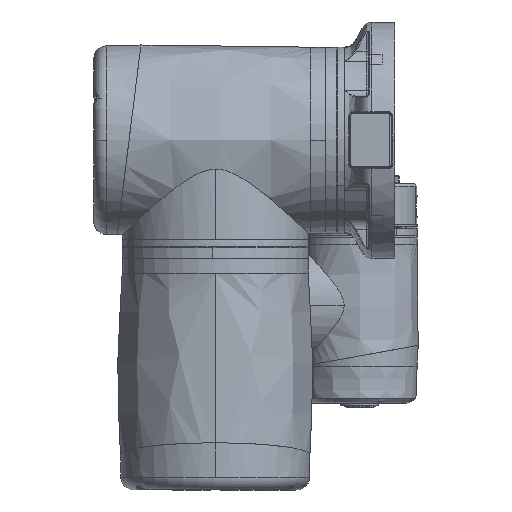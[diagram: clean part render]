
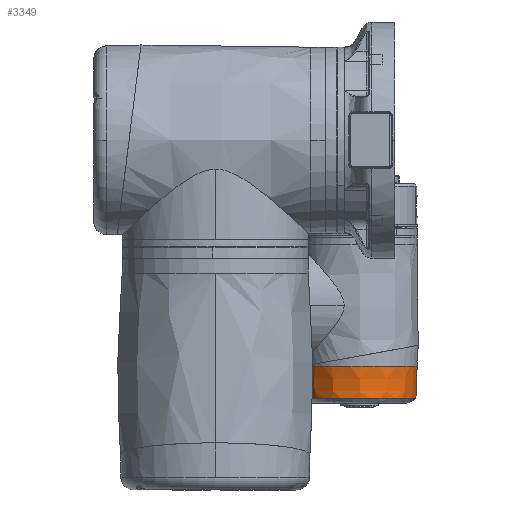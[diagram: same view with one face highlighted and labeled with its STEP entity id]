
A CAD part, left-side view. The second image highlights one B-rep face of the part: STEP entity #3349.
In plain terms, the highlighted free-form (B-spline) face has degree [3, 3] with [4, 7] control points.
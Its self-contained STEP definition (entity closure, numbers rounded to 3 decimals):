
#30 = B_SPLINE_CURVE_WITH_KNOTS ( 'NONE', 3,
 ( #52918, #10418, #67958, #45111 ),
 .UNSPECIFIED., .F., .F.,
 ( 4, 4 ),
 ( 0., 1. ),
 .UNSPECIFIED. ) ;
#1814 = CARTESIAN_POINT ( 'NONE',  ( 112.699, 0., 0. ) ) ;
#2051 = FACE_OUTER_BOUND ( 'NONE', #45864, .T. ) ;
#2592 = DIRECTION ( 'NONE',  ( -1., 0., 0. ) ) ;
#3349 = ADVANCED_FACE ( 'NONE', ( #2051 ), #11541, .T. ) ;
#10418 = CARTESIAN_POINT ( 'NONE',  ( 136.471, 45.241, 0. ) ) ;
#11541 =( BOUNDED_SURFACE ( )  B_SPLINE_SURFACE ( 3, 3, ( 
 ( #49295, #87711, #26895, #13255, #56563, #72096, #79426 ),
 ( #41937, #42428, #57516, #21062, #80404, #50739, #34664 ),
 ( #73067, #35155, #65769, #64826, #50247, #27373, #86261 ),
 ( #79909, #12277, #88199, #36112, #28813, #94531, #57052 ) ),
 .UNSPECIFIED., .F., .T., .T. ) 
 B_SPLINE_SURFACE_WITH_KNOTS ( ( 4, 4 ),
 ( 4, 3, 4 ),
 ( 0., 1. ),
 ( 0., 0.5, 1. ),
 .UNSPECIFIED. ) 
 GEOMETRIC_REPRESENTATION_ITEM ( )  RATIONAL_B_SPLINE_SURFACE ( (
 ( 1., 0.333, 0.333, 1., 0.333, 0.333, 1.),
 ( 1., 0.333, 0.333, 1., 0.333, 0.333, 1.),
 ( 1., 0.333, 0.333, 1., 0.333, 0.333, 1.),
 ( 1., 0.333, 0.333, 1., 0.333, 0.333, 1.) ) ) 
 REPRESENTATION_ITEM ( '' )  SURFACE ( )  );
#12277 = CARTESIAN_POINT ( 'NONE',  ( 112.699, -45.551, -91.102 ) ) ;
#13255 = CARTESIAN_POINT ( 'NONE',  ( 138.1, 44.3, 0. ) ) ;
#13621 = EDGE_CURVE ( 'NONE', #38670, #45747, #84338, .T. ) ;
#18690 = ORIENTED_EDGE ( 'NONE', *, *, #13621, .T. ) ;
#21062 = CARTESIAN_POINT ( 'NONE',  ( 136.471, 45.241, 0. ) ) ;
#21265 = ORIENTED_EDGE ( 'NONE', *, *, #46890, .T. ) ;
#22782 = VERTEX_POINT ( 'NONE', #82374 ) ;
#26700 = CARTESIAN_POINT ( 'NONE',  ( 138.1, 22.15, -38.365 ) ) ;
#26895 = CARTESIAN_POINT ( 'NONE',  ( 138.1, 44.3, -88.6 ) ) ;
#27373 = CARTESIAN_POINT ( 'NONE',  ( 121.172, -45.28, 90.561 ) ) ;
#27792 = EDGE_CURVE ( 'NONE', #22782, #38670, #48878, .T. ) ;
#27868 = CARTESIAN_POINT ( 'NONE',  ( 138.1, -44.3, 0. ) ) ;
#28813 = CARTESIAN_POINT ( 'NONE',  ( 112.699, 45.551, 91.102 ) ) ;
#31560 = DIRECTION ( 'NONE',  ( 0., 0., -1. ) ) ;
#32753 = CARTESIAN_POINT ( 'NONE',  ( 121.172, -45.28, 0. ) ) ;
#34625 = AXIS2_PLACEMENT_3D ( 'NONE', #55863, #79209, #87481 ) ;
#34664 = CARTESIAN_POINT ( 'NONE',  ( 136.471, -45.241, 0. ) ) ;
#35155 = CARTESIAN_POINT ( 'NONE',  ( 121.172, -45.28, -90.561 ) ) ;
#36112 = CARTESIAN_POINT ( 'NONE',  ( 112.699, 45.551, 0. ) ) ;
#36936 = B_SPLINE_CURVE_WITH_KNOTS ( 'NONE', 3,
 ( #60977, #75592, #32753, #77029 ),
 .UNSPECIFIED., .F., .F.,
 ( 4, 4 ),
 ( 0., 1. ),
 .UNSPECIFIED. ) ;
#38670 = VERTEX_POINT ( 'NONE', #26700 ) ;
#39494 = CARTESIAN_POINT ( 'NONE',  ( 112.699, 45.551, 0. ) ) ;
#41937 = CARTESIAN_POINT ( 'NONE',  ( 136.471, -45.241, 0. ) ) ;
#42428 = CARTESIAN_POINT ( 'NONE',  ( 136.471, -45.241, -90.481 ) ) ;
#45111 = CARTESIAN_POINT ( 'NONE',  ( 112.699, 45.551, 0. ) ) ;
#45601 = ORIENTED_EDGE ( 'NONE', *, *, #53240, .F. ) ;
#45747 = VERTEX_POINT ( 'NONE', #27868 ) ;
#45864 = EDGE_LOOP ( 'NONE', ( #45601, #85567, #18690, #21265, #55213 ) ) ;
#45961 = DIRECTION ( 'NONE',  ( 0., 0., -1. ) ) ;
#46890 = EDGE_CURVE ( 'NONE', #45747, #47810, #36936, .T. ) ;
#47810 = VERTEX_POINT ( 'NONE', #86753 ) ;
#48878 = CIRCLE ( 'NONE', #87724, 44.3 ) ;
#49295 = CARTESIAN_POINT ( 'NONE',  ( 138.1, -44.3, 0. ) ) ;
#50247 = CARTESIAN_POINT ( 'NONE',  ( 121.172, 45.28, 90.561 ) ) ;
#50739 = CARTESIAN_POINT ( 'NONE',  ( 136.471, -45.241, 90.481 ) ) ;
#52918 = CARTESIAN_POINT ( 'NONE',  ( 138.1, 44.3, 0. ) ) ;
#53240 = EDGE_CURVE ( 'NONE', #22782, #93234, #30, .T. ) ;
#55213 = ORIENTED_EDGE ( 'NONE', *, *, #64025, .F. ) ;
#55863 = CARTESIAN_POINT ( 'NONE',  ( 138.1, 0., 0. ) ) ;
#56563 = CARTESIAN_POINT ( 'NONE',  ( 138.1, 44.3, 88.6 ) ) ;
#57052 = CARTESIAN_POINT ( 'NONE',  ( 112.699, -45.551, 0. ) ) ;
#57516 = CARTESIAN_POINT ( 'NONE',  ( 136.471, 45.241, -90.481 ) ) ;
#60977 = CARTESIAN_POINT ( 'NONE',  ( 138.1, -44.3, 0. ) ) ;
#61444 = CIRCLE ( 'NONE', #73876, 45.551 ) ;
#64025 = EDGE_CURVE ( 'NONE', #93234, #47810, #61444, .T. ) ;
#64826 = CARTESIAN_POINT ( 'NONE',  ( 121.172, 45.28, 0. ) ) ;
#65769 = CARTESIAN_POINT ( 'NONE',  ( 121.172, 45.28, -90.561 ) ) ;
#66876 = CARTESIAN_POINT ( 'NONE',  ( 138.1, 0., 0. ) ) ;
#67958 = CARTESIAN_POINT ( 'NONE',  ( 121.172, 45.28, 0. ) ) ;
#72096 = CARTESIAN_POINT ( 'NONE',  ( 138.1, -44.3, 88.6 ) ) ;
#73067 = CARTESIAN_POINT ( 'NONE',  ( 121.172, -45.28, 0. ) ) ;
#73876 = AXIS2_PLACEMENT_3D ( 'NONE', #1814, #76299, #31560 ) ;
#75592 = CARTESIAN_POINT ( 'NONE',  ( 136.471, -45.241, 0. ) ) ;
#76299 = DIRECTION ( 'NONE',  ( -1., 0., 0. ) ) ;
#77029 = CARTESIAN_POINT ( 'NONE',  ( 112.699, -45.551, 0. ) ) ;
#79209 = DIRECTION ( 'NONE',  ( -1., 0., 0. ) ) ;
#79426 = CARTESIAN_POINT ( 'NONE',  ( 138.1, -44.3, 0. ) ) ;
#79909 = CARTESIAN_POINT ( 'NONE',  ( 112.699, -45.551, 0. ) ) ;
#80404 = CARTESIAN_POINT ( 'NONE',  ( 136.471, 45.241, 90.481 ) ) ;
#82374 = CARTESIAN_POINT ( 'NONE',  ( 138.1, 44.3, 0. ) ) ;
#84338 = CIRCLE ( 'NONE', #34625, 44.3 ) ;
#85567 = ORIENTED_EDGE ( 'NONE', *, *, #27792, .T. ) ;
#86261 = CARTESIAN_POINT ( 'NONE',  ( 121.172, -45.28, 0. ) ) ;
#86753 = CARTESIAN_POINT ( 'NONE',  ( 112.699, -45.551, 0. ) ) ;
#87481 = DIRECTION ( 'NONE',  ( 0., 0., -1. ) ) ;
#87711 = CARTESIAN_POINT ( 'NONE',  ( 138.1, -44.3, -88.6 ) ) ;
#87724 = AXIS2_PLACEMENT_3D ( 'NONE', #66876, #2592, #45961 ) ;
#88199 = CARTESIAN_POINT ( 'NONE',  ( 112.699, 45.551, -91.102 ) ) ;
#93234 = VERTEX_POINT ( 'NONE', #39494 ) ;
#94531 = CARTESIAN_POINT ( 'NONE',  ( 112.699, -45.551, 91.102 ) ) ;
